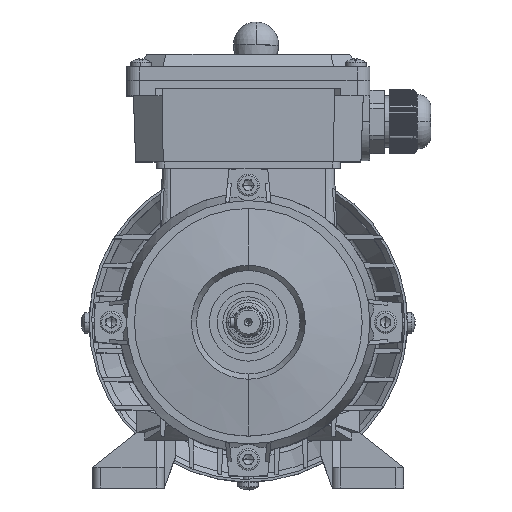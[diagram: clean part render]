
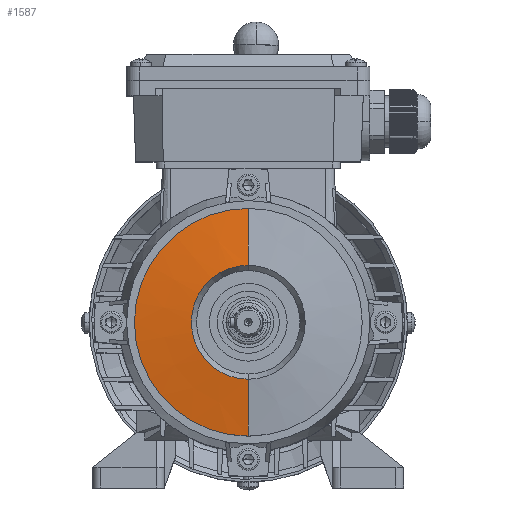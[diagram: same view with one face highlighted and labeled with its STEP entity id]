
A CAD part, top view. The second image highlights one B-rep face of the part: STEP entity #1587.
In plain terms, the highlighted conical face has half-angle 82.235 degrees and reference radius 22 mm.
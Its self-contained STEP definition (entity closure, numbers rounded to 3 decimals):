
#1587 = ADVANCED_FACE ( 'NONE', ( #26608 ), #51717, .T. ) ;
#3075 = CARTESIAN_POINT ( 'NONE',  ( -2.098, -0.551, 75.5 ) ) ;
#5735 = EDGE_CURVE ( 'NONE', #96396, #111412, #110671, .T. ) ;
#6607 = DIRECTION ( 'NONE',  ( 0., 0., -1. ) ) ;
#9625 = LINE ( 'NONE', #56646, #83621 ) ;
#10887 = DIRECTION ( 'NONE',  ( 0., 0.991, -0.135 ) ) ;
#12807 = AXIS2_PLACEMENT_3D ( 'NONE', #3075, #41716, #13214 ) ;
#13214 = DIRECTION ( 'NONE',  ( 0., 1., 0. ) ) ;
#13491 = CARTESIAN_POINT ( 'NONE',  ( -2.098, -22.551, 78.5 ) ) ;
#16750 = DIRECTION ( 'NONE',  ( 0., 1., 0. ) ) ;
#16848 = VERTEX_POINT ( 'NONE', #53715 ) ;
#17746 = EDGE_LOOP ( 'NONE', ( #86622, #103164, #118084, #116486 ) ) ;
#26608 = FACE_OUTER_BOUND ( 'NONE', #17746, .T. ) ;
#36184 = CARTESIAN_POINT ( 'NONE',  ( -2.098, 21.449, 78.5 ) ) ;
#41194 = CARTESIAN_POINT ( 'NONE',  ( -2.098, -22.551, 78.5 ) ) ;
#41716 = DIRECTION ( 'NONE',  ( 0., 0., -1. ) ) ;
#51046 = EDGE_CURVE ( 'NONE', #95252, #16848, #79716, .T. ) ;
#51717 = CONICAL_SURFACE ( 'NONE', #86246, 22., 1.435 ) ;
#53715 = CARTESIAN_POINT ( 'NONE',  ( -2.098, 43.449, 75.5 ) ) ;
#56646 = CARTESIAN_POINT ( 'NONE',  ( -2.098, 21.449, 78.5 ) ) ;
#62295 = VECTOR ( 'NONE', #110252, 1000. ) ;
#63483 = EDGE_CURVE ( 'NONE', #111412, #16848, #9625, .T. ) ;
#64831 = CARTESIAN_POINT ( 'NONE',  ( -2.098, -0.551, 78.5 ) ) ;
#75022 = DIRECTION ( 'NONE',  ( 0., 0., -1. ) ) ;
#79716 = CIRCLE ( 'NONE', #12807, 44. ) ;
#80543 = LINE ( 'NONE', #41194, #62295 ) ;
#82389 = AXIS2_PLACEMENT_3D ( 'NONE', #84606, #6607, #16750 ) ;
#83621 = VECTOR ( 'NONE', #10887, 1000. ) ;
#84606 = CARTESIAN_POINT ( 'NONE',  ( -2.098, -0.551, 78.5 ) ) ;
#86246 = AXIS2_PLACEMENT_3D ( 'NONE', #64831, #75022, #107055 ) ;
#86622 = ORIENTED_EDGE ( 'NONE', *, *, #95856, .F. ) ;
#95252 = VERTEX_POINT ( 'NONE', #103068 ) ;
#95856 = EDGE_CURVE ( 'NONE', #96396, #95252, #80543, .T. ) ;
#96396 = VERTEX_POINT ( 'NONE', #13491 ) ;
#103068 = CARTESIAN_POINT ( 'NONE',  ( -2.098, -44.551, 75.5 ) ) ;
#103164 = ORIENTED_EDGE ( 'NONE', *, *, #5735, .T. ) ;
#107055 = DIRECTION ( 'NONE',  ( 0., 1., 0. ) ) ;
#110252 = DIRECTION ( 'NONE',  ( 0., -0.991, -0.135 ) ) ;
#110671 = CIRCLE ( 'NONE', #82389, 22. ) ;
#111412 = VERTEX_POINT ( 'NONE', #36184 ) ;
#116486 = ORIENTED_EDGE ( 'NONE', *, *, #51046, .F. ) ;
#118084 = ORIENTED_EDGE ( 'NONE', *, *, #63483, .T. ) ;
